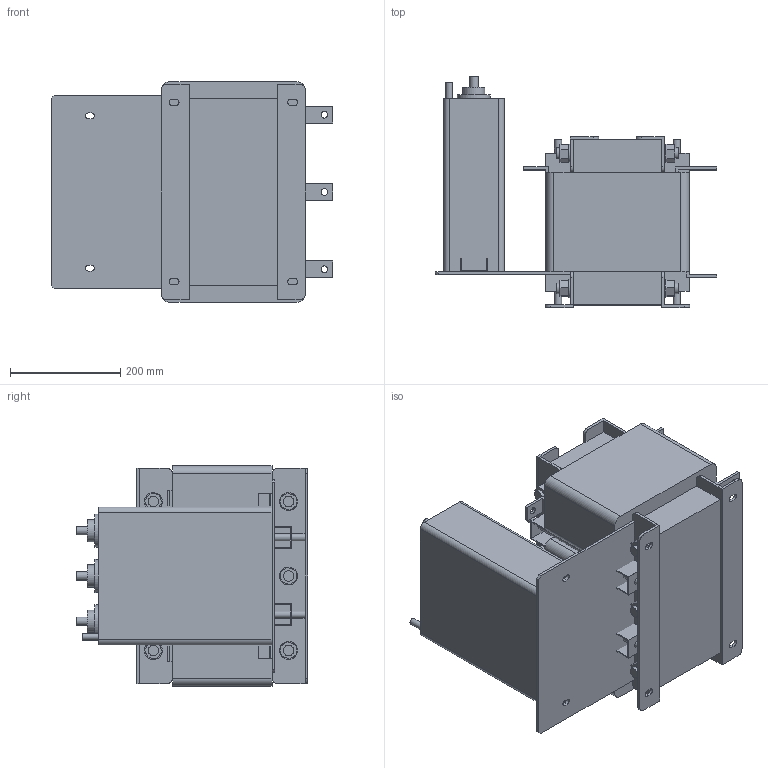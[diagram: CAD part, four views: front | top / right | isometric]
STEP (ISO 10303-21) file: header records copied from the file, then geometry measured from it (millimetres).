
FILE_DESCRIPTION(/* description */ (''),/* implementation_level */ '2;1');
FILE_NAME(/* name */ 'Sin-T6-225.stp',/* time_stamp */ '2025-02-25T11:04:10+04:00',/* author */ ('Лео'),/* organization */ (''),/* preprocessor_version */ 'ST-DEVELOPER v19.2',/* originating_system */ 'Autodesk Inventor 2024',/* authorisation */ '');
FILE_SCHEMA (('AUTOMOTIVE_DESIGN { 1 0 10303 214 3 1 1 }'));
Length unit declared in the file: millimetre
Products named in the file (1): Sin-T6-225
Bounding box: 510 x 420 x 400 mm (x, y, z)
Volume: 33802313.9 mm3; surface area: 1820823.1 mm2
Topology: 26 solids, 26 shells, 557 faces, 1237 edges, 774 vertices
Faces by surface type: plane 450, cylinder 107
Full cylindrical faces by diameter (mm): 12 x10, 13 x12, 15 x3, 19 x12, 32.562 x12, 40 x3, 60 x3
Entity records: 15227 total; most frequent: DIRECTION 2639, CARTESIAN_POINT 2569, ORIENTED_EDGE 2474, EDGE_CURVE 1237, LINE 951, VECTOR 951, AXIS2_PLACEMENT_3D 844, VERTEX_POINT 774
